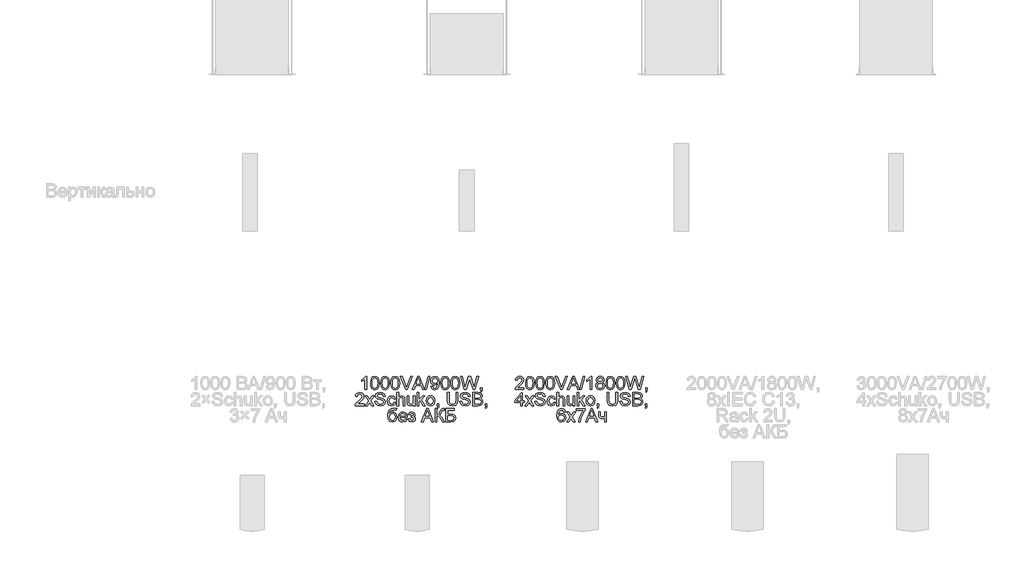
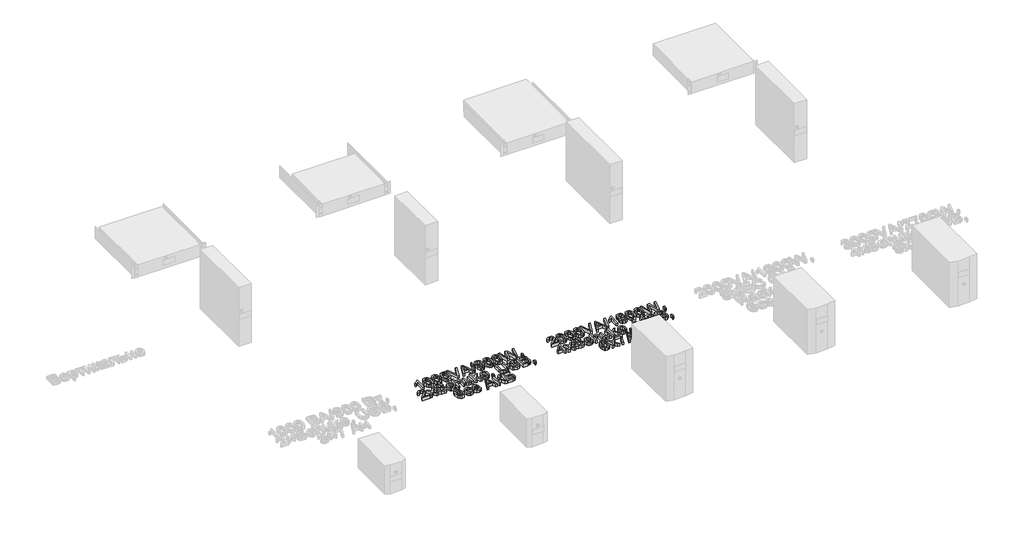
# One storey, part 56 of 74: 2 proxies.
"""IFC4 building model written with IfcOpenShell, lengths in millimetres."""

from ifc_helpers import new_model, si_unit, origin, origin_with_axes, place, context, project, spatial, polyline, outline, extrude, element, save

model = new_model("IFC4")

# Units and contexts
model_context = context("Model", 3, world=origin())
ifc_project = project(units=[si_unit("LENGTHUNIT", "METRE", prefix="MILLI")], contexts=[model_context])

# Site, building, storey
site = spatial("IfcSite", under=ifc_project)
building = spatial("IfcBuilding", under=site)
storey = spatial("IfcBuildingStorey", under=building, Name="Этаж 01", Elevation=0.0)

# Proxies
placement = place(None, origin())
element("IfcBuildingElementProxy", 1, Name="80 мм Arial", ObjectType="80 мм Arial", at=placement, inside=storey, context=model_context, shape_type="SweptSolid", body=[
    extrude(outline(polyline([(2046.0651374, -737.6348585), (2036.0195064, -737.6348585), (2036.0195064, -675.0066276), (2026.5036255, -681.7854665), (2015.9282444, -686.857333), (2015.9282444, -677.3610724), (2030.6533344, -667.9629137), (2039.5904143, -657.2698104), (2046.0651374, -657.2698104), (2046.0651374, -737.6348585)])), origin_with_axes(), (0.0, 0.0, 1.0), 20.0),
    extrude(outline(polyline([(2069.9235111, -698.0998067), (2072.8763772, -674.9771971), (2081.646684, -661.6451535), (2096.2932925, -657.2698104), (2108.0262756, -659.8596996), (2116.1294897, -667.3252516), (2120.8383792, -679.2151976), (2122.6630739, -698.0998067), (2119.7396383, -721.1243145), (2110.9987621, -734.4857886), (2096.2932925, -738.8905623), (2085.855254, -736.977576), (2077.9286233, -731.2386168), (2071.9247891, -717.6466034), (2069.9235111, -698.0998067)]), holes=[polyline([(2079.9691421, -698.0801864), (2081.1463645, -713.8819443), (2084.6780316, -723.0274907), (2096.2932925, -728.8449313), (2107.9085534, -723.0078703), (2111.4402205, -713.8574189), (2112.6174429, -698.0801864), (2111.4794613, -682.6340476), (2108.0655163, -673.4173774), (2102.8170665, -668.8409254), (2096.1755703, -667.3154414), (2084.8349946, -672.6914236), (2081.1856052, -682.4819898), (2079.9691421, -698.0801864)])]), origin_with_axes(), (0.0, 0.0, 1.0), 20.0),
    extrude(outline(polyline([(2131.453001, -698.0998067), (2134.4058672, -674.9771971), (2143.176174, -661.6451535), (2157.8227825, -657.2698104), (2169.5557656, -659.8596996), (2177.6589796, -667.3252516), (2182.3678692, -679.2151976), (2184.1925639, -698.0998067), (2181.2691283, -721.1243145), (2172.5282521, -734.4857886), (2157.8227825, -738.8905623), (2147.384744, -736.977576), (2139.4581133, -731.2386168), (2133.4542791, -717.6466034), (2131.453001, -698.0998067)]), holes=[polyline([(2141.4986321, -698.0801864), (2142.6758544, -713.8819443), (2146.2075216, -723.0274907), (2157.8227825, -728.8449313), (2169.4380433, -723.0078703), (2172.9697105, -713.8574189), (2174.1469329, -698.0801864), (2173.0089512, -682.6340476), (2169.5950063, -673.4173774), (2164.3465565, -668.8409254), (2157.7050602, -667.3154414), (2146.3644846, -672.6914236), (2142.7150952, -682.4819898), (2141.4986321, -698.0801864)])]), origin_with_axes(), (0.0, 0.0, 1.0), 20.0),
    extrude(outline(polyline([(2192.982491, -698.0998067), (2195.9353572, -674.9771971), (2204.7056639, -661.6451535), (2219.3522724, -657.2698104), (2231.0852555, -659.8596996), (2239.1884696, -667.3252516), (2243.8973591, -679.2151976), (2245.7220538, -698.0998067), (2242.7986183, -721.1243145), (2234.0577421, -734.4857886), (2219.3522724, -738.8905623), (2208.914234, -736.977576), (2200.9876032, -731.2386168), (2194.9837691, -717.6466034), (2192.982491, -698.0998067)]), holes=[polyline([(2203.028122, -698.0801864), (2204.2053444, -713.8819443), (2207.7370116, -723.0274907), (2219.3522724, -728.8449313), (2230.9675333, -723.0078703), (2234.4992004, -713.8574189), (2235.6764228, -698.0801864), (2234.5384412, -682.6340476), (2231.1244963, -673.4173774), (2225.8760465, -668.8409254), (2219.2345502, -667.3154414), (2207.8939746, -672.6914236), (2204.2445852, -682.4819898), (2203.028122, -698.0801864)])]), origin_with_axes(), (0.0, 0.0, 1.0), 20.0),
    extrude(outline(polyline([(2282.019744, -737.6348585), (2250.0385359, -657.2698104), (2260.7905004, -657.2698104), (2282.1963274, -715.1695313), (2286.5324298, -728.2170794), (2290.8096712, -715.1695313), (2312.2743593, -657.2698104), (2323.0263238, -657.2698104), (2292.3989214, -737.6348585), (2282.019744, -737.6348585)])), origin_with_axes(), (0.0, 0.0, 1.0), 20.0),
    extrude(outline(polyline([(2323.0067034, -737.6348585), (2355.0860134, -657.2698104), (2363.640496, -657.2698104), (2395.719806, -737.6348585), (2385.1051842, -737.6348585), (2375.9032292, -712.5207809), (2342.8036598, -712.5207809), (2333.6213252, -737.6348585), (2323.0067034, -737.6348585)]), holes=[polyline([(2346.49229, -702.4751499), (2372.2342194, -702.4751499), (2364.9943018, -682.7174342), (2359.3632547, -667.3154414), (2354.3600596, -680.9908414), (2346.49229, -702.4751499)])]), origin_with_axes(), (0.0, 0.0, 1.0), 20.0),
    extrude(outline(polyline([(2397.6622229, -737.6348585), (2420.2648927, -657.2698104), (2429.3295051, -657.2698104), (2406.7268353, -737.6348585), (2397.6622229, -737.6348585)])), origin_with_axes(), (0.0, 0.0, 1.0), 20.0),
    extrude(outline(polyline([(2435.3333393, -717.5435964), (2445.3789703, -716.2878926), (2449.8916561, -725.8724448), (2458.4461387, -728.8449313), (2466.5787834, -726.931945), (2472.0921082, -721.8208378), (2475.3785207, -713.0897718), (2476.8304283, -701.4352701), (2476.7715672, -699.4732328), (2468.7370244, -707.0859376), (2457.7201849, -710.0093732), (2448.5599233, -708.2239192), (2440.9349558, -702.8675574), (2435.7919655, -694.592665), (2434.0776354, -684.0516196), (2435.8753521, -673.1623125), (2441.2685021, -664.6274503), (2449.3692636, -659.1092203), (2459.2898148, -657.2698104), (2473.6028769, -661.4685702), (2483.4523042, -673.4369978), (2486.8171982, -695.9219453), (2483.4621144, -720.3198792), (2473.4851547, -734.1424321), (2457.9752498, -738.8905623), (2449.3864315, -737.4901582), (2442.5340162, -733.2889458), (2435.3333393, -717.5435964)]), holes=[polyline([(2476.7715672, -683.8161751), (2472.4354647, -671.7692661), (2460.9183057, -667.3154414), (2448.8321559, -672.1126226), (2444.1232664, -684.5421289), (2448.5770911, -695.6766906), (2460.6436205, -699.9637422), (2472.2294508, -695.6766906), (2476.7715672, -683.8161751)])]), origin_with_axes(), (0.0, 0.0, 1.0), 20.0),
    extrude(outline(polyline([(2495.6071253, -698.0998067), (2498.5599915, -674.9771971), (2507.3302983, -661.6451535), (2521.9769068, -657.2698104), (2533.7098899, -659.8596996), (2541.8131039, -667.3252516), (2546.5219935, -679.2151976), (2548.3466882, -698.0998067), (2545.4232526, -721.1243145), (2536.6823764, -734.4857886), (2521.9769068, -738.8905623), (2511.5388683, -736.977576), (2503.6122376, -731.2386168), (2497.6084034, -717.6466034), (2495.6071253, -698.0998067)]), holes=[polyline([(2505.6527564, -698.0801864), (2506.8299787, -713.8819443), (2510.3616459, -723.0274907), (2521.9769068, -728.8449313), (2533.5921676, -723.0078703), (2537.1238348, -713.8574189), (2538.3010572, -698.0801864), (2537.1630755, -682.6340476), (2533.7491306, -673.4173774), (2528.5006808, -668.8409254), (2521.8591845, -667.3154414), (2510.5186089, -672.6914236), (2506.8692195, -682.4819898), (2505.6527564, -698.0801864)])]), origin_with_axes(), (0.0, 0.0, 1.0), 20.0),
    extrude(outline(polyline([(2557.1366153, -698.0998067), (2560.0894815, -674.9771971), (2568.8597882, -661.6451535), (2583.5063967, -657.2698104), (2595.2393798, -659.8596996), (2603.3425939, -667.3252516), (2608.0514834, -679.2151976), (2609.8761781, -698.0998067), (2606.9527425, -721.1243145), (2598.2118663, -734.4857886), (2583.5063967, -738.8905623), (2573.0683582, -736.977576), (2565.1417275, -731.2386168), (2559.1378934, -717.6466034), (2557.1366153, -698.0998067)]), holes=[polyline([(2567.1822463, -698.0801864), (2568.3594687, -713.8819443), (2571.8911359, -723.0274907), (2583.5063967, -728.8449313), (2595.1216576, -723.0078703), (2598.6533247, -713.8574189), (2599.8305471, -698.0801864), (2598.6925655, -682.6340476), (2595.2786206, -673.4173774), (2590.0301708, -668.8409254), (2583.3886745, -667.3154414), (2572.0480988, -672.6914236), (2568.3987095, -682.4819898), (2567.1822463, -698.0801864)])]), origin_with_axes(), (0.0, 0.0, 1.0), 20.0),
    extrude(outline(polyline([(2636.8149504, -737.6348585), (2614.8989936, -657.2698104), (2625.2585506, -657.2698104), (2637.9725524, -710.0878547), (2641.896627, -726.3923847), (2646.0953868, -711.9714105), (2662.0271298, -657.2698104), (2676.9582337, -657.2698104), (2688.5342538, -696.9225843), (2697.1475976, -726.3923847), (2700.95395, -710.5587436), (2713.7856739, -657.2698104), (2724.1452309, -657.2698104), (2702.2096538, -737.6348585), (2691.4773098, -737.6348585), (2672.2101034, -675.6344796), (2669.5221123, -666.981895), (2666.5005748, -677.4003131), (2648.9403409, -737.6348585), (2636.8149504, -737.6348585)])), origin_with_axes(), (0.0, 0.0, 1.0), 20.0),
    extrude(outline(polyline([(2735.4465658, -737.6348585), (2735.4465658, -727.5892275), (2745.4921968, -727.5892275), (2745.4921968, -737.6348585), (2743.6871225, -747.9061238), (2737.9579736, -753.9590089), (2735.4465658, -750.1918972), (2739.135196, -745.8557948), (2740.449761, -737.6348585), (2735.4465658, -737.6348585)])), origin_with_axes(), (0.0, 0.0, 1.0), 20.0),
    extrude(outline(polyline([(2030.368839, -825.1690817), (2030.368839, -835.2147127), (1977.6292761, -835.2147127), (1978.7083967, -828.2887211), (1984.8103327, -817.6250483), (1997.3869918, -805.9803569), (2014.7314016, -789.2441786), (2019.0675041, -777.8643622), (2014.9766563, -768.6525971), (2004.2933631, -764.8952956), (1993.1588014, -768.5643054), (1988.930611, -778.7080383), (1978.88498, -777.4523344), (1981.3203588, -767.7353446), (1986.5859764, -760.6376747), (1994.4071477, -756.2966671), (2004.5091872, -754.8496646), (2014.6848032, -756.4585352), (2022.4912592, -761.285147), (2027.4576661, -768.4956341), (2029.1131351, -777.2561307), (2027.3276811, -786.7818218), (2021.3925183, -796.6312491), (2007.0009746, -810.3949408), (1995.4445749, -820.0579745), (1990.9122687, -825.1690817), (2030.368839, -825.1690817)])), origin_with_axes(), (0.0, 0.0, 1.0), 20.0),
    extrude(outline(polyline([(2036.6473583, -835.2147127), (2058.1120465, -805.5487087), (2037.9030622, -776.1966305), (2049.989212, -776.1966305), (2059.7405375, -790.3232991), (2064.292464, -796.994226), (2068.236159, -791.5397623), (2079.3412902, -776.1966305), (2091.42744, -776.1966305), (2070.1981963, -805.5487087), (2090.6426251, -835.2147127), (2078.5564752, -835.2147127), (2066.2545013, -817.3797936), (2063.9981584, -814.1228117), (2048.7335082, -835.2147127), (2036.6473583, -835.2147127)])), origin_with_axes(), (0.0, 0.0, 1.0), 20.0),
    extrude(outline(polyline([(2096.9211444, -807.5892275), (2106.9667754, -807.5892275), (2110.204137, -817.6446687), (2118.1111474, -824.0016695), (2130.1580564, -826.4247856), (2140.654956, -824.5902807), (2147.4337949, -819.5478448), (2149.6607073, -812.8082467), (2147.9929756, -806.5395375), (2141.1650857, -801.9778008), (2126.5380976, -798.1420178), (2110.7927482, -793.1878736), (2102.2480757, -785.7125115), (2099.4325522, -775.7257416), (2102.9151684, -764.3557354), (2113.0883318, -756.3310028), (2127.980195, -753.5939608), (2143.8726972, -756.4585352), (2154.4676987, -764.8756753), (2158.4506344, -777.4523344), (2148.4050034, -777.4523344), (2142.7150952, -767.1320182), (2128.3726025, -763.6395918), (2113.990869, -767.0927774), (2109.4781832, -775.431436), (2112.676304, -782.3966684), (2129.0789359, -788.0080951), (2146.8549939, -793.050531), (2156.5768888, -801.1929858), (2159.7063383, -812.5531818), (2156.1059998, -824.5706604), (2145.7464428, -833.3409671), (2130.5504639, -836.4704166), (2112.6076327, -833.0957125), (2101.2572469, -822.9323592), (2096.9211444, -807.5892275)])), origin_with_axes(), (0.0, 0.0, 1.0), 20.0),
    extrude(outline(polyline([(2211.1901972, -813.8677468), (2221.2358282, -815.1234507), (2218.43502, -824.0580781), (2213.1718549, -830.809939), (2197.240112, -836.4704166), (2186.5543663, -834.4961166), (2178.1985399, -828.5732165), (2172.8053899, -818.9616862), (2171.0076732, -805.9214957), (2174.0782616, -789.2343684), (2183.4371795, -778.5118346), (2197.1027694, -774.9409267), (2212.3772298, -779.8460199), (2219.9801244, -793.7764848), (2209.9344934, -795.0321887), (2205.2746547, -787.5077756), (2197.1812509, -784.9865577), (2185.5365594, -789.9505121), (2181.0533042, -805.6468105), (2185.4384576, -821.4902618), (2196.9065656, -826.4247856), (2206.3733956, -823.344387), (2211.1901972, -813.8677468)])), origin_with_axes(), (0.0, 0.0, 1.0), 20.0),
    extrude(outline(polyline([(2230.0257554, -835.2147127), (2230.0257554, -754.8496646), (2240.0713864, -754.8496646), (2240.0713864, -784.3979465), (2247.9048203, -777.3051816), (2257.5531388, -774.9409267), (2268.8348533, -777.5210057), (2275.6823635, -784.6530113), (2277.7425027, -797.8575224), (2277.7425027, -835.2147127), (2267.6968717, -835.2147127), (2267.6968717, -798.8974022), (2264.4987509, -788.3024007), (2255.4341385, -784.9865577), (2247.203392, -787.2232802), (2241.7096875, -793.2859755), (2240.0713864, -803.8613566), (2240.0713864, -835.2147127), (2230.0257554, -835.2147127)])), origin_with_axes(), (0.0, 0.0, 1.0), 20.0),
    extrude(outline(polyline([(2329.2263617, -835.2147127), (2329.2263617, -825.0709799), (2321.3585921, -833.6205574), (2311.0971369, -836.4704166), (2301.6499273, -834.4691386), (2295.1359634, -829.4463231), (2292.1438565, -822.0494424), (2291.5552453, -812.7101448), (2291.5552453, -776.1966305), (2301.6008764, -776.1966305), (2301.6008764, -807.9816349), (2302.2091079, -818.2234697), (2306.1822335, -824.237114), (2313.6674058, -826.4247856), (2322.0551153, -824.1880631), (2327.5978707, -818.0959372), (2329.2263617, -806.9025144), (2329.2263617, -776.1966305), (2339.2719927, -776.1966305), (2339.2719927, -835.2147127), (2329.2263617, -835.2147127)])), origin_with_axes(), (0.0, 0.0, 1.0), 20.0),
    extrude(outline(polyline([(2353.0847353, -835.2147127), (2353.0847353, -754.8496646), (2363.1303663, -754.8496646), (2363.1303663, -798.0341058), (2385.6545546, -776.1966305), (2399.5457788, -776.1966305), (2376.7469052, -798.308791), (2400.8014826, -835.2147127), (2389.0684995, -835.2147127), (2369.5462283, -805.2936438), (2363.1303663, -811.5133021), (2363.1303663, -835.2147127), (2353.0847353, -835.2147127)])), origin_with_axes(), (0.0, 0.0, 1.0), 20.0),
    extrude(outline(polyline([(2407.080002, -805.7056716), (2409.2529583, -791.4759961), (2415.7718273, -781.4745109), (2423.8259904, -776.5743227), (2433.4694038, -774.9409267), (2444.022712, -776.929942), (2452.4521148, -782.8969879), (2457.9777023, -792.3711756), (2459.8195649, -804.881616), (2456.5625829, -822.7557758), (2447.0761325, -832.8700782), (2433.4694038, -836.4704166), (2422.7885632, -834.4887589), (2414.3689706, -828.5437859), (2408.9022442, -818.870942), (2407.080002, -805.7056716)]), holes=[polyline([(2417.125633, -805.6860513), (2421.7756615, -821.2548173), (2433.4694038, -826.4247856), (2445.1239054, -821.2253867), (2449.7739338, -805.3721253), (2445.0944749, -790.156526), (2433.4694038, -784.9865577), (2421.7756615, -790.1369056), (2417.125633, -805.6860513)])]), origin_with_axes(), (0.0, 0.0, 1.0), 20.0),
    extrude(outline(polyline([(2473.6323075, -835.2147127), (2473.6323075, -825.1690817), (2483.6779385, -825.1690817), (2483.6779385, -835.2147127), (2481.8728642, -845.4859781), (2476.1437152, -851.5388631), (2473.6323075, -847.7717515), (2477.3209376, -843.4356491), (2478.6355026, -835.2147127), (2473.6323075, -835.2147127)])), origin_with_axes(), (0.0, 0.0, 1.0), 20.0),
    extrude(outline(polyline([(2587.9013603, -754.8496646), (2597.9469913, -754.8496646), (2597.9469913, -801.2126062), (2595.2197594, -820.4307616), (2585.3899525, -832.0067817), (2566.7505981, -836.4704166), (2548.3957391, -832.5855828), (2538.2127655, -821.3332988), (2535.1617975, -801.2126062), (2535.1617975, -754.8496646), (2545.2074285, -754.8496646), (2545.2074285, -800.8594395), (2547.1890862, -816.1731407), (2553.9973556, -823.7564149), (2565.8088202, -826.4247856), (2576.0261295, -825.1053155), (2582.8196837, -821.1469053), (2586.6309411, -813.4360986), (2587.9013603, -800.8594395), (2587.9013603, -754.8496646)])), origin_with_axes(), (0.0, 0.0, 1.0), 20.0),
    extrude(outline(polyline([(2611.759734, -807.5892275), (2621.805365, -807.5892275), (2625.0427265, -817.6446687), (2632.9497369, -824.0016695), (2644.9966459, -826.4247856), (2655.4935455, -824.5902807), (2662.2723844, -819.5478448), (2664.4992968, -812.8082467), (2662.8315651, -806.5395375), (2656.0036752, -801.9778008), (2641.3766871, -798.1420178), (2625.6313377, -793.1878736), (2617.0866652, -785.7125115), (2614.2711417, -775.7257416), (2617.7537579, -764.3557354), (2627.9269214, -756.3310028), (2642.8187845, -753.5939608), (2658.7112867, -756.4585352), (2669.3062882, -764.8756753), (2673.2892239, -777.4523344), (2663.2435929, -777.4523344), (2657.5536847, -767.1320182), (2643.211192, -763.6395918), (2628.8294585, -767.0927774), (2624.3167727, -775.431436), (2627.5148935, -782.3966684), (2643.9175254, -788.0080951), (2661.6935834, -793.050531), (2671.4154783, -801.1929858), (2674.5449278, -812.5531818), (2670.9445893, -824.5706604), (2660.5850324, -833.3409671), (2645.3890534, -836.4704166), (2627.4462222, -833.0957125), (2616.0958364, -822.9323592), (2611.759734, -807.5892275)])), origin_with_axes(), (0.0, 0.0, 1.0), 20.0),
    extrude(outline(polyline([(2689.6133743, -835.2147127), (2689.6133743, -754.8496646), (2720.2800174, -754.8496646), (2735.299413, -757.2139196), (2744.1678217, -764.4832678), (2747.3757527, -774.7643433), (2744.6779514, -784.1526918), (2736.5256863, -791.2650771), (2746.4241646, -798.7600596), (2749.8871604, -811.2582372), (2747.5229055, -822.0592526), (2741.6662241, -829.7504388), (2732.9253479, -833.8314764), (2720.044573, -835.2147127), (2689.6133743, -835.2147127)]), holes=[polyline([(2699.6590053, -787.4979654), (2718.0040542, -787.4979654), (2728.7167779, -786.634669), (2735.1620704, -782.9166083), (2737.3301216, -776.3732139), (2735.3092232, -769.8200093), (2729.5212132, -765.9449856), (2716.6110077, -764.8952956), (2699.6590053, -764.8952956), (2699.6590053, -787.4979654)]), polyline([(2699.6590053, -825.1690817), (2720.2603971, -825.1690817), (2727.7161388, -824.7766743), (2734.0240888, -822.5890027), (2738.2032282, -818.1253678), (2739.8415294, -811.3563391), (2737.9187328, -803.5474306), (2731.6892644, -798.887592), (2719.2793784, -797.5435964), (2699.6590053, -797.5435964), (2699.6590053, -825.1690817)])]), origin_with_axes(), (0.0, 0.0, 1.0), 20.0),
    extrude(outline(polyline([(2764.9556069, -835.2147127), (2764.9556069, -825.1690817), (2775.0012379, -825.1690817), (2775.0012379, -835.2147127), (2773.1961636, -845.4859781), (2767.4670147, -851.5388631), (2764.9556069, -847.7717515), (2768.6442371, -843.4356491), (2769.9588021, -835.2147127), (2764.9556069, -835.2147127)])), origin_with_axes(), (0.0, 0.0, 1.0), 20.0),
    extrude(outline(polyline([(2218.7244205, -851.173815), (2227.5143476, -851.173815), (2224.9244584, -859.0121541), (2219.803541, -861.847298), (2207.5015671, -862.4751499), (2190.932162, -864.7903539), (2184.5751612, -872.206855), (2182.4267303, -885.3328846), (2191.1283658, -875.7189017), (2202.341409, -872.5207809), (2212.7941627, -874.5539421), (2221.275069, -880.6534256), (2226.8963059, -890.22081), (2228.7700515, -902.657674), (2225.0519908, -919.9432227), (2216.2326331, -930.3714509), (2202.341409, -934.0502709), (2186.4783373, -929.3119508), (2177.7963223, -917.1865602), (2174.7747848, -891.454441), (2176.6804135, -872.179877), (2182.3972997, -860.4248209), (2192.0676911, -854.4283444), (2205.8338354, -852.4295189), (2217.017448, -852.2038846), (2218.7244205, -851.173815)]), holes=[polyline([(2218.7244205, -902.343748), (2214.3686977, -888.1091673), (2209.1202479, -883.9521008), (2202.0863441, -882.5664119), (2194.7532297, -884.0305823), (2189.3134813, -888.4230933), (2184.8204158, -904.0703408), (2189.7843702, -918.8739123), (2202.027483, -924.0046399), (2208.7621761, -922.5208492), (2214.0940124, -918.069477), (2218.7244205, -902.343748)])]), origin_with_axes(), (0.0, 0.0, 1.0), 20.0),
    extrude(outline(polyline([(2282.647596, -915.2147127), (2292.4970233, -916.4704166), (2283.2852581, -929.4394832), (2266.1272418, -934.0502709), (2254.3403027, -932.0612556), (2245.2707853, -926.0942096), (2239.4876803, -916.5366354), (2237.5599786, -903.7760352), (2239.5073007, -890.5862394), (2245.3492668, -880.7220969), (2254.2961569, -874.5711099), (2265.558251, -872.5207809), (2276.469631, -874.5662048), (2285.1884343, -880.7024765), (2290.9053205, -890.5469987), (2292.8109492, -903.7171741), (2292.7520881, -906.4247856), (2247.6056097, -906.4247856), (2253.3838095, -919.4723337), (2266.3234456, -924.0046399), (2276.1728729, -921.90526), (2282.647596, -915.2147127)]), holes=[polyline([(2247.6056097, -896.3791546), (2282.7653182, -896.3791546), (2278.7431417, -887.2753015), (2265.5190103, -882.5664119), (2253.1483651, -886.3237134), (2247.6056097, -896.3791546)])]), origin_with_axes(), (0.0, 0.0, 1.0), 20.0),
    extrude(outline(polyline([(2316.6693229, -906.4247856), (2316.6693229, -896.3791546), (2324.5959536, -895.9867471), (2328.5985097, -893.8971774), (2330.4820655, -889.5316444), (2327.9608476, -884.459778), (2321.4566939, -882.5664119), (2314.7367161, -884.4499678), (2310.3908035, -890.1006352), (2299.0894686, -888.8449313), (2306.6433122, -876.6018185), (2320.4364345, -872.5207809), (2335.1909551, -877.4945455), (2340.5276965, -889.3746814), (2338.6294255, -895.61396), (2332.9346122, -900.4405718), (2339.5761085, -906.6994708), (2341.7834004, -915.7052221), (2340.3829963, -923.0996502), (2336.1817839, -928.9587841), (2320.514916, -934.0502709), (2305.0638722, -929.3413814), (2297.8337647, -915.2147127), (2309.1350996, -913.9590089), (2313.6674058, -921.3755099), (2321.4763143, -924.0046399), (2328.8143338, -921.4834219), (2331.7377694, -915.0381294), (2329.9228849, -909.760249), (2326.0576714, -906.9349153), (2318.6313602, -906.3659245), (2316.6693229, -906.4247856)])), origin_with_axes(), (0.0, 0.0, 1.0), 20.0),
    extrude(outline(polyline([(2377.629822, -932.794567), (2409.709132, -852.4295189), (2418.2636147, -852.4295189), (2450.3429247, -932.794567), (2439.7283028, -932.794567), (2430.5263478, -907.6804895), (2397.4267785, -907.6804895), (2388.2444439, -932.794567), (2377.629822, -932.794567)]), holes=[polyline([(2401.1154086, -897.6348585), (2426.8573381, -897.6348585), (2419.6174204, -877.8771428), (2413.9863733, -862.4751499), (2408.9831782, -876.15055), (2401.1154086, -897.6348585)])]), origin_with_axes(), (0.0, 0.0, 1.0), 20.0),
    extrude(outline(polyline([(2461.0752687, -852.4295189), (2471.1208997, -852.4295189), (2471.1208997, -887.5892275), (2482.3535633, -884.9306669), (2490.1919024, -871.4809012), (2495.7346578, -860.2482376), (2502.0131772, -854.6858618), (2510.9894978, -852.4295189), (2517.5819432, -852.5472411), (2517.5819432, -862.5928722), (2515.364841, -862.534011), (2513.1477389, -862.4751499), (2505.2995896, -864.8884558), (2499.3349962, -875.2283924), (2492.222611, -887.8246719), (2485.2868091, -891.984191), (2493.0417616, -896.5263074), (2500.688802, -905.9931374), (2517.5819432, -932.794567), (2505.9274416, -932.794567), (2491.64381, -910.1526565), (2481.5883688, -898.3313817), (2471.1208997, -895.1234507), (2471.1208997, -932.794567), (2461.0752687, -932.794567), (2461.0752687, -852.4295189)])), origin_with_axes(), (0.0, 0.0, 1.0), 20.0),
    extrude(outline(polyline([(2526.3718703, -852.4295189), (2576.6000254, -852.4295189), (2576.6000254, -862.4751499), (2536.4175013, -862.4751499), (2536.4175013, -886.3335236), (2555.2334391, -886.3335236), (2571.8126544, -888.3740424), (2581.681702, -896.084849), (2585.3899525, -909.2697397), (2582.7510124, -920.7182274), (2574.8734326, -929.4198629), (2557.0385134, -932.794567), (2526.3718703, -932.794567), (2526.3718703, -852.4295189)]), holes=[polyline([(2536.4175013, -922.748936), (2557.9410506, -922.748936), (2570.9885987, -919.433093), (2575.3443215, -909.4855638), (2572.8525341, -901.6177942), (2565.9167323, -897.4190344), (2550.7796144, -896.3791546), (2536.4175013, -896.3791546), (2536.4175013, -922.748936)])]), origin_with_axes(), (0.0, 0.0, 1.0), 20.0),
])
element("IfcBuildingElementProxy", 2, Name="80 мм Arial", ObjectType="80 мм Arial", at=placement, inside=storey, context=model_context, shape_type="SweptSolid", body=[
    extrude(outline(polyline([(2999.1131351, -727.5892275), (2999.1131351, -737.6348585), (2946.3735723, -737.6348585), (2947.4526928, -730.7088668), (2953.5546288, -720.045194), (2966.1312879, -708.4005026), (2983.4756977, -691.6643244), (2987.8118002, -680.284508), (2983.7209524, -671.0727428), (2973.0376593, -667.3154414), (2961.9030975, -670.9844511), (2957.6749071, -681.128184), (2947.6292761, -679.8724801), (2950.0646549, -670.1554904), (2955.3302726, -663.0578204), (2963.1514438, -658.7168129), (2973.2534834, -657.2698104), (2983.4290994, -658.8786809), (2991.2355553, -663.7052927), (2996.2019622, -670.9157798), (2997.8574312, -679.6762764), (2996.0719773, -689.2019675), (2990.1368144, -699.0513948), (2975.7452708, -712.8150865), (2964.188871, -722.4781203), (2959.6565648, -727.5892275), (2999.1131351, -727.5892275)])), origin_with_axes(), (0.0, 0.0, 1.0), 20.0),
    extrude(outline(polyline([(3009.1587661, -698.0998067), (3012.1116322, -674.9771971), (3020.881939, -661.6451535), (3035.5285475, -657.2698104), (3047.2615306, -659.8596996), (3055.3647447, -667.3252516), (3060.0736342, -679.2151976), (3061.8983289, -698.0998067), (3058.9748933, -721.1243145), (3050.2340171, -734.4857886), (3035.5285475, -738.8905623), (3025.090509, -736.977576), (3017.1638783, -731.2386168), (3011.1600442, -717.6466034), (3009.1587661, -698.0998067)]), holes=[polyline([(3019.2043971, -698.0801864), (3020.3816195, -713.8819443), (3023.9132867, -723.0274907), (3035.5285475, -728.8449313), (3047.1438084, -723.0078703), (3050.6754755, -713.8574189), (3051.8526979, -698.0801864), (3050.7147163, -682.6340476), (3047.3007714, -673.4173774), (3042.0523216, -668.8409254), (3035.4108253, -667.3154414), (3024.0702496, -672.6914236), (3020.4208602, -682.4819898), (3019.2043971, -698.0801864)])]), origin_with_axes(), (0.0, 0.0, 1.0), 20.0),
    extrude(outline(polyline([(3070.6882561, -698.0998067), (3073.6411222, -674.9771971), (3082.411429, -661.6451535), (3097.0580375, -657.2698104), (3108.7910206, -659.8596996), (3116.8942347, -667.3252516), (3121.6031242, -679.2151976), (3123.4278189, -698.0998067), (3120.5043833, -721.1243145), (3111.7635071, -734.4857886), (3097.0580375, -738.8905623), (3086.619999, -736.977576), (3078.6933683, -731.2386168), (3072.6895341, -717.6466034), (3070.6882561, -698.0998067)]), holes=[polyline([(3080.7338871, -698.0801864), (3081.9111095, -713.8819443), (3085.4427766, -723.0274907), (3097.0580375, -728.8449313), (3108.6732983, -723.0078703), (3112.2049655, -713.8574189), (3113.3821879, -698.0801864), (3112.2442062, -682.6340476), (3108.8302613, -673.4173774), (3103.5818115, -668.8409254), (3096.9403152, -667.3154414), (3085.5997396, -672.6914236), (3081.9503502, -682.4819898), (3080.7338871, -698.0801864)])]), origin_with_axes(), (0.0, 0.0, 1.0), 20.0),
    extrude(outline(polyline([(3132.217746, -698.0998067), (3135.1706122, -674.9771971), (3143.9409189, -661.6451535), (3158.5875274, -657.2698104), (3170.3205105, -659.8596996), (3178.4237246, -667.3252516), (3183.1326142, -679.2151976), (3184.9573089, -698.0998067), (3182.0338733, -721.1243145), (3173.2929971, -734.4857886), (3158.5875274, -738.8905623), (3148.149489, -736.977576), (3140.2228582, -731.2386168), (3134.2190241, -717.6466034), (3132.217746, -698.0998067)]), holes=[polyline([(3142.263377, -698.0801864), (3143.4405994, -713.8819443), (3146.9722666, -723.0274907), (3158.5875274, -728.8449313), (3170.2027883, -723.0078703), (3173.7344555, -713.8574189), (3174.9116778, -698.0801864), (3173.7736962, -682.6340476), (3170.3597513, -673.4173774), (3165.1113015, -668.8409254), (3158.4698052, -667.3154414), (3147.1292296, -672.6914236), (3143.4798402, -682.4819898), (3142.263377, -698.0801864)])]), origin_with_axes(), (0.0, 0.0, 1.0), 20.0),
    extrude(outline(polyline([(3262.2419584, -737.6348585), (3294.3212684, -657.2698104), (3302.875751, -657.2698104), (3334.955061, -737.6348585), (3324.3404392, -737.6348585), (3315.1384842, -712.5207809), (3282.0389148, -712.5207809), (3272.8565802, -737.6348585), (3262.2419584, -737.6348585)]), holes=[polyline([(3285.727545, -702.4751499), (3311.4694745, -702.4751499), (3304.2295568, -682.7174342), (3298.5985097, -667.3154414), (3293.5953146, -680.9908414), (3285.727545, -702.4751499)])]), origin_with_axes(), (0.0, 0.0, 1.0), 20.0),
    extrude(outline(polyline([(3221.2549991, -737.6348585), (3189.2737909, -657.2698104), (3200.0257554, -657.2698104), (3221.4315824, -715.1695313), (3225.7676849, -728.2170794), (3230.0449262, -715.1695313), (3251.5096143, -657.2698104), (3262.2615788, -657.2698104), (3231.6341764, -737.6348585), (3221.2549991, -737.6348585)])), origin_with_axes(), (0.0, 0.0, 1.0), 20.0),
    extrude(outline(polyline([(3336.897478, -737.6348585), (3359.5001477, -657.2698104), (3368.5647601, -657.2698104), (3345.9620903, -737.6348585), (3336.897478, -737.6348585)])), origin_with_axes(), (0.0, 0.0, 1.0), 20.0),
    extrude(outline(polyline([(3410.9840067, -737.6348585), (3400.9383757, -737.6348585), (3400.9383757, -675.0066276), (3391.4224947, -681.7854665), (3380.8471137, -686.857333), (3380.8471137, -677.3610724), (3395.5722036, -667.9629137), (3404.5092836, -657.2698104), (3410.9840067, -657.2698104), (3410.9840067, -737.6348585)])), origin_with_axes(), (0.0, 0.0, 1.0), 20.0),
    extrude(outline(polyline([(3449.4791787, -693.3712968), (3440.3262746, -687.1320182), (3437.3537881, -677.4199335), (3438.9724689, -669.5668792), (3443.8285112, -663.0774408), (3451.3774498, -658.721718), (3461.0748192, -657.2698104), (3470.8310497, -658.7560536), (3478.4780901, -663.2147834), (3483.4224241, -669.8072287), (3485.0705354, -677.6946187), (3482.1372897, -687.1614487), (3473.2394505, -693.3712968), (3483.9227436, -701.2488766), (3487.5819432, -714.2473738), (3485.7670587, -723.8515464), (3480.3224051, -731.7879873), (3471.9150753, -737.1149186), (3461.2121618, -738.8905623), (3450.5092483, -737.1075609), (3442.1019184, -731.7585567), (3436.6572649, -723.7460869), (3434.8423804, -713.9726885), (3438.6487327, -700.6700756), (3449.4791787, -693.3712968)]), holes=[polyline([(3447.3994191, -677.7142391), (3450.9605168, -685.6016291), (3461.329884, -688.6624073), (3471.4932373, -685.6212494), (3475.0249044, -678.1655077), (3471.375515, -670.4448909), (3461.2121618, -667.3154414), (3451.019378, -670.3762196), (3447.3994191, -677.7142391)]), polyline([(3444.8880114, -713.6195218), (3446.5655533, -721.1831756), (3452.5007161, -726.8436533), (3461.2906433, -728.8449313), (3473.2590708, -724.6363613), (3477.5363122, -713.9334478), (3473.1217282, -703.0245204), (3460.9570969, -698.7080383), (3449.1358221, -702.9656592), (3444.8880114, -713.6195218)])]), origin_with_axes(), (0.0, 0.0, 1.0), 20.0),
    extrude(outline(polyline([(3496.3718703, -698.0998067), (3499.3247365, -674.9771971), (3508.0950432, -661.6451535), (3522.7416517, -657.2698104), (3534.4746348, -659.8596996), (3542.5778489, -667.3252516), (3547.2867385, -679.2151976), (3549.1114332, -698.0998067), (3546.1879976, -721.1243145), (3537.4471214, -734.4857886), (3522.7416517, -738.8905623), (3512.3036133, -736.977576), (3504.3769825, -731.2386168), (3498.3731484, -717.6466034), (3496.3718703, -698.0998067)]), holes=[polyline([(3506.4175013, -698.0801864), (3507.5947237, -713.8819443), (3511.1263909, -723.0274907), (3522.7416517, -728.8449313), (3534.3569126, -723.0078703), (3537.8885798, -713.8574189), (3539.0658021, -698.0801864), (3537.9278205, -682.6340476), (3534.5138756, -673.4173774), (3529.2654258, -668.8409254), (3522.6239295, -667.3154414), (3511.2833539, -672.6914236), (3507.6339645, -682.4819898), (3506.4175013, -698.0801864)])]), origin_with_axes(), (0.0, 0.0, 1.0), 20.0),
    extrude(outline(polyline([(3557.9013603, -698.0998067), (3560.8542264, -674.9771971), (3569.6245332, -661.6451535), (3584.2711417, -657.2698104), (3596.0041248, -659.8596996), (3604.1073389, -667.3252516), (3608.8162284, -679.2151976), (3610.6409231, -698.0998067), (3607.7174875, -721.1243145), (3598.9766113, -734.4857886), (3584.2711417, -738.8905623), (3573.8331032, -736.977576), (3565.9064725, -731.2386168), (3559.9026383, -717.6466034), (3557.9013603, -698.0998067)]), holes=[polyline([(3567.9469913, -698.0801864), (3569.1242137, -713.8819443), (3572.6558808, -723.0274907), (3584.2711417, -728.8449313), (3595.8864026, -723.0078703), (3599.4180697, -713.8574189), (3600.5952921, -698.0801864), (3599.4573105, -682.6340476), (3596.0433656, -673.4173774), (3590.7949158, -668.8409254), (3584.1534195, -667.3154414), (3572.8128438, -672.6914236), (3569.1634544, -682.4819898), (3567.9469913, -698.0801864)])]), origin_with_axes(), (0.0, 0.0, 1.0), 20.0),
    extrude(outline(polyline([(3637.5796954, -737.6348585), (3615.6637386, -657.2698104), (3626.0232956, -657.2698104), (3638.7372974, -710.0878547), (3642.661372, -726.3923847), (3646.8601318, -711.9714105), (3662.7918748, -657.2698104), (3677.7229787, -657.2698104), (3689.2989988, -696.9225843), (3697.9123426, -726.3923847), (3701.7186949, -710.5587436), (3714.5504189, -657.2698104), (3724.9099759, -657.2698104), (3702.9743988, -737.6348585), (3692.2420547, -737.6348585), (3672.9748484, -675.6344796), (3670.2868573, -666.981895), (3667.2653198, -677.4003131), (3649.7050859, -737.6348585), (3637.5796954, -737.6348585)])), origin_with_axes(), (0.0, 0.0, 1.0), 20.0),
    extrude(outline(polyline([(3736.2113108, -737.6348585), (3736.2113108, -727.5892275), (3746.2569418, -727.5892275), (3746.2569418, -737.6348585), (3744.4518675, -747.9061238), (3738.7227186, -753.9590089), (3736.2113108, -750.1918972), (3739.8999409, -745.8557948), (3741.2145059, -737.6348585), (3736.2113108, -737.6348585)])), origin_with_axes(), (0.0, 0.0, 1.0), 20.0),
    extrude(outline(polyline([(2980.2775769, -835.2147127), (2980.2775769, -816.3791546), (2943.8621645, -816.3791546), (2943.8621645, -806.3335236), (2982.7889847, -756.1053685), (2990.3232079, -756.1053685), (2990.3232079, -806.3335236), (3000.368839, -806.3335236), (3000.368839, -816.3791546), (2990.3232079, -816.3791546), (2990.3232079, -835.2147127), (2980.2775769, -835.2147127)]), holes=[polyline([(2980.2775769, -806.3335236), (2980.2775769, -775.2940934), (2956.2229995, -806.3335236), (2980.2775769, -806.3335236)])]), origin_with_axes(), (0.0, 0.0, 1.0), 20.0),
    extrude(outline(polyline([(3005.3916545, -835.2147127), (3026.8563426, -805.5487087), (3006.6473583, -776.1966305), (3018.7335082, -776.1966305), (3028.4848336, -790.3232991), (3033.0367601, -796.994226), (3036.9804551, -791.5397623), (3048.0855863, -776.1966305), (3060.1717361, -776.1966305), (3038.9424924, -805.5487087), (3059.3869212, -835.2147127), (3047.3007714, -835.2147127), (3034.9987974, -817.3797936), (3032.7424545, -814.1228117), (3017.4778043, -835.2147127), (3005.3916545, -835.2147127)])), origin_with_axes(), (0.0, 0.0, 1.0), 20.0),
    extrude(outline(polyline([(3065.6654406, -807.5892275), (3075.7110716, -807.5892275), (3078.9484331, -817.6446687), (3086.8554435, -824.0016695), (3098.9023525, -826.4247856), (3109.3992521, -824.5902807), (3116.178091, -819.5478448), (3118.4050034, -812.8082467), (3116.7372717, -806.5395375), (3109.9093818, -801.9778008), (3095.2823937, -798.1420178), (3079.5370443, -793.1878736), (3070.9923718, -785.7125115), (3068.1768483, -775.7257416), (3071.6594645, -764.3557354), (3081.832628, -756.3310028), (3096.7244911, -753.5939608), (3112.6169933, -756.4585352), (3123.2119948, -764.8756753), (3127.1949305, -777.4523344), (3117.1492995, -777.4523344), (3111.4593913, -767.1320182), (3097.1168986, -763.6395918), (3082.7351651, -767.0927774), (3078.2224793, -775.431436), (3081.4206001, -782.3966684), (3097.823232, -788.0080951), (3115.59929, -793.050531), (3125.3211849, -801.1929858), (3128.4506344, -812.5531818), (3124.8502959, -824.5706604), (3114.490739, -833.3409671), (3099.29476, -836.4704166), (3081.3519288, -833.0957125), (3070.001543, -822.9323592), (3065.6654406, -807.5892275)])), origin_with_axes(), (0.0, 0.0, 1.0), 20.0),
    extrude(outline(polyline([(3179.9344934, -813.8677468), (3189.9801244, -815.1234507), (3187.1793161, -824.0580781), (3181.916151, -830.809939), (3165.9844081, -836.4704166), (3155.2986624, -834.4961166), (3146.942836, -828.5732165), (3141.549686, -818.9616862), (3139.7519693, -805.9214957), (3142.8225577, -789.2343684), (3152.1814756, -778.5118346), (3165.8470655, -774.9409267), (3181.1215259, -779.8460199), (3188.7244205, -793.7764848), (3178.6787895, -795.0321887), (3174.0189509, -787.5077756), (3165.925547, -784.9865577), (3154.2808556, -789.9505121), (3149.7976003, -805.6468105), (3154.1827537, -821.4902618), (3165.6508618, -826.4247856), (3175.1176918, -823.344387), (3179.9344934, -813.8677468)])), origin_with_axes(), (0.0, 0.0, 1.0), 20.0),
    extrude(outline(polyline([(3198.7700515, -835.2147127), (3198.7700515, -754.8496646), (3208.8156825, -754.8496646), (3208.8156825, -784.3979465), (3216.6491165, -777.3051816), (3226.2974349, -774.9409267), (3237.5791495, -777.5210057), (3244.4266597, -784.6530113), (3246.4867988, -797.8575224), (3246.4867988, -835.2147127), (3236.4411678, -835.2147127), (3236.4411678, -798.8974022), (3233.243047, -788.3024007), (3224.1784346, -784.9865577), (3215.9476881, -787.2232802), (3210.4539837, -793.2859755), (3208.8156825, -803.8613566), (3208.8156825, -835.2147127), (3198.7700515, -835.2147127)])), origin_with_axes(), (0.0, 0.0, 1.0), 20.0),
    extrude(outline(polyline([(3297.9706578, -835.2147127), (3297.9706578, -825.0709799), (3290.1028882, -833.6205574), (3279.8414331, -836.4704166), (3270.3942234, -834.4691386), (3263.8802596, -829.4463231), (3260.8881527, -822.0494424), (3260.2995415, -812.7101448), (3260.2995415, -776.1966305), (3270.3451725, -776.1966305), (3270.3451725, -807.9816349), (3270.9534041, -818.2234697), (3274.9265296, -824.237114), (3282.4117019, -826.4247856), (3290.7994114, -824.1880631), (3296.3421668, -818.0959372), (3297.9706578, -806.9025144), (3297.9706578, -776.1966305), (3308.0162888, -776.1966305), (3308.0162888, -835.2147127), (3297.9706578, -835.2147127)])), origin_with_axes(), (0.0, 0.0, 1.0), 20.0),
    extrude(outline(polyline([(3321.8290314, -835.2147127), (3321.8290314, -754.8496646), (3331.8746625, -754.8496646), (3331.8746625, -798.0341058), (3354.3988507, -776.1966305), (3368.2900749, -776.1966305), (3345.4912014, -798.308791), (3369.5457788, -835.2147127), (3357.8127957, -835.2147127), (3338.2905245, -805.2936438), (3331.8746625, -811.5133021), (3331.8746625, -835.2147127), (3321.8290314, -835.2147127)])), origin_with_axes(), (0.0, 0.0, 1.0), 20.0),
    extrude(outline(polyline([(3375.8242981, -805.7056716), (3377.9972545, -791.4759961), (3384.5161234, -781.4745109), (3392.5702866, -776.5743227), (3402.2136999, -774.9409267), (3412.7670081, -776.929942), (3421.1964109, -782.8969879), (3426.7219985, -792.3711756), (3428.563861, -804.881616), (3425.306879, -822.7557758), (3415.8204287, -832.8700782), (3402.2136999, -836.4704166), (3391.5328593, -834.4887589), (3383.1132667, -828.5437859), (3377.6465403, -818.870942), (3375.8242981, -805.7056716)]), holes=[polyline([(3385.8699292, -805.6860513), (3390.5199576, -821.2548173), (3402.2136999, -826.4247856), (3413.8682015, -821.2253867), (3418.51823, -805.3721253), (3413.838771, -790.156526), (3402.2136999, -784.9865577), (3390.5199576, -790.1369056), (3385.8699292, -805.6860513)])]), origin_with_axes(), (0.0, 0.0, 1.0), 20.0),
    extrude(outline(polyline([(3442.3766036, -835.2147127), (3442.3766036, -825.1690817), (3452.4222346, -825.1690817), (3452.4222346, -835.2147127), (3450.6171603, -845.4859781), (3444.8880114, -851.5388631), (3442.3766036, -847.7717515), (3446.0652338, -843.4356491), (3447.3797988, -835.2147127), (3442.3766036, -835.2147127)])), origin_with_axes(), (0.0, 0.0, 1.0), 20.0),
    extrude(outline(polyline([(3556.6456564, -754.8496646), (3566.6912874, -754.8496646), (3566.6912874, -801.2126062), (3563.9640556, -820.4307616), (3554.1342487, -832.0067817), (3535.4948942, -836.4704166), (3517.1400352, -832.5855828), (3506.9570616, -821.3332988), (3503.9060936, -801.2126062), (3503.9060936, -754.8496646), (3513.9517246, -754.8496646), (3513.9517246, -800.8594395), (3515.9333823, -816.1731407), (3522.7416517, -823.7564149), (3534.5531163, -826.4247856), (3544.7704256, -825.1053155), (3551.5639798, -821.1469053), (3555.3752373, -813.4360986), (3556.6456564, -800.8594395), (3556.6456564, -754.8496646)])), origin_with_axes(), (0.0, 0.0, 1.0), 20.0),
    extrude(outline(polyline([(3580.5040301, -807.5892275), (3590.5496611, -807.5892275), (3593.7870226, -817.6446687), (3601.694033, -824.0016695), (3613.7409421, -826.4247856), (3624.2378417, -824.5902807), (3631.0166806, -819.5478448), (3633.2435929, -812.8082467), (3631.5758612, -806.5395375), (3624.7479714, -801.9778008), (3610.1209832, -798.1420178), (3594.3756338, -793.1878736), (3585.8309614, -785.7125115), (3583.0154378, -775.7257416), (3586.498054, -764.3557354), (3596.6712175, -756.3310028), (3611.5630807, -753.5939608), (3627.4555828, -756.4585352), (3638.0505843, -764.8756753), (3642.03352, -777.4523344), (3631.987889, -777.4523344), (3626.2979808, -767.1320182), (3611.9554881, -763.6395918), (3597.5737547, -767.0927774), (3593.0610688, -775.431436), (3596.2591897, -782.3966684), (3612.6618215, -788.0080951), (3630.4378796, -793.050531), (3640.1597744, -801.1929858), (3643.2892239, -812.5531818), (3639.6888855, -824.5706604), (3629.3293285, -833.3409671), (3614.1333495, -836.4704166), (3596.1905183, -833.0957125), (3584.8401325, -822.9323592), (3580.5040301, -807.5892275)])), origin_with_axes(), (0.0, 0.0, 1.0), 20.0),
    extrude(outline(polyline([(3658.3576704, -835.2147127), (3658.3576704, -754.8496646), (3689.0243136, -754.8496646), (3704.0437091, -757.2139196), (3712.9121178, -764.4832678), (3716.1200488, -774.7643433), (3713.4222475, -784.1526918), (3705.2699825, -791.2650771), (3715.1684607, -798.7600596), (3718.6314565, -811.2582372), (3716.2672016, -822.0592526), (3710.4105202, -829.7504388), (3701.669644, -833.8314764), (3688.7888691, -835.2147127), (3658.3576704, -835.2147127)]), holes=[polyline([(3668.4033015, -787.4979654), (3686.7483503, -787.4979654), (3697.461074, -786.634669), (3703.9063665, -782.9166083), (3706.0744178, -776.3732139), (3704.0535193, -769.8200093), (3698.2655093, -765.9449856), (3685.3553038, -764.8952956), (3668.4033015, -764.8952956), (3668.4033015, -787.4979654)]), polyline([(3668.4033015, -825.1690817), (3689.0046932, -825.1690817), (3696.460435, -824.7766743), (3702.7683849, -822.5890027), (3706.9475244, -818.1253678), (3708.5858255, -811.3563391), (3706.663029, -803.5474306), (3700.4335605, -798.887592), (3688.0236745, -797.5435964), (3668.4033015, -797.5435964), (3668.4033015, -825.1690817)])]), origin_with_axes(), (0.0, 0.0, 1.0), 20.0),
    extrude(outline(polyline([(3733.6999031, -835.2147127), (3733.6999031, -825.1690817), (3743.7455341, -825.1690817), (3743.7455341, -835.2147127), (3741.9404597, -845.4859781), (3736.2113108, -851.5388631), (3733.6999031, -847.7717515), (3737.3885332, -843.4356491), (3738.7030982, -835.2147127), (3733.6999031, -835.2147127)])), origin_with_axes(), (0.0, 0.0, 1.0), 20.0),
    extrude(outline(polyline([(3250.8817624, -873.7764848), (3240.8361314, -875.0321887), (3237.029779, -866.6542894), (3226.9645276, -862.4751499), (3217.8999153, -864.9080762), (3211.0425949, -874.0413598), (3208.1878306, -891.9449503), (3217.046429, -883.9300279), (3228.0240278, -881.3107081), (3237.3044642, -883.1010671), (3245.0937523, -888.4721442), (3250.3765378, -896.6783653), (3252.1374663, -906.9741561), (3248.8216232, -920.8359496), (3239.6981497, -930.6461362), (3226.5328794, -934.0502709), (3215.1358952, -931.793928), (3206.0590201, -925.0248993), (3200.1214047, -913.0760921), (3198.1421996, -895.2804137), (3200.3396814, -875.2725383), (3206.9321267, -861.5922331), (3215.9329729, -854.7201975), (3227.5923796, -852.4295189), (3236.4068322, -853.8470909), (3243.4652614, -858.0998067), (3250.8817624, -873.7764848)]), holes=[polyline([(3208.1878306, -906.8171931), (3210.5128448, -915.5188285), (3216.6932623, -921.8365887), (3225.7480645, -924.0046399), (3237.5889596, -919.5115745), (3242.0918353, -907.3077024), (3237.6478208, -895.6237702), (3225.3360367, -891.3563391), (3213.1812155, -895.6237702), (3208.1878306, -906.8171931)])]), origin_with_axes(), (0.0, 0.0, 1.0), 20.0),
    extrude(outline(polyline([(3257.1602818, -932.794567), (3278.6249699, -903.1285629), (3258.4159857, -873.7764848), (3270.5021355, -873.7764848), (3280.2534609, -887.9031534), (3284.8053874, -894.5740803), (3288.7490824, -889.1196166), (3299.8542136, -873.7764848), (3311.9403634, -873.7764848), (3290.7111197, -903.1285629), (3311.1555485, -932.794567), (3299.0693987, -932.794567), (3286.7674248, -914.9596479), (3284.5110818, -911.702666), (3269.2464316, -932.794567), (3257.1602818, -932.794567)])), origin_with_axes(), (0.0, 0.0, 1.0), 20.0),
    extrude(outline(polyline([(3317.4340679, -863.7308538), (3317.4340679, -853.6852228), (3370.1736307, -853.6852228), (3370.1736307, -861.8080572), (3355.2130962, -883.4198982), (3343.7646085, -910.9570918), (3340.0367377, -932.794567), (3329.9911066, -932.794567), (3333.9838526, -910.1330361), (3344.9418309, -884.5186391), (3360.1279997, -863.7308538), (3317.4340679, -863.7308538)])), origin_with_axes(), (0.0, 0.0, 1.0), 20.0),
    extrude(outline(polyline([(3373.3717515, -932.794567), (3405.4510615, -852.4295189), (3414.0055442, -852.4295189), (3446.0848541, -932.794567), (3435.4702323, -932.794567), (3426.2682773, -907.6804895), (3393.1687079, -907.6804895), (3383.9863733, -932.794567), (3373.3717515, -932.794567)]), holes=[polyline([(3396.8573381, -897.6348585), (3422.5992676, -897.6348585), (3415.3593499, -877.8771428), (3409.7283028, -862.4751499), (3404.7251077, -876.15055), (3396.8573381, -897.6348585)])]), origin_with_axes(), (0.0, 0.0, 1.0), 20.0),
    extrude(outline(polyline([(3451.7943827, -873.7764848), (3461.8400137, -873.7764848), (3461.8400137, -885.0974401), (3462.6542592, -895.7120619), (3466.5685236, -901.4608312), (3474.3381914, -903.9133779), (3488.2097951, -900.87222), (3488.2097951, -873.7764848), (3498.2554261, -873.7764848), (3498.2554261, -932.794567), (3488.2097951, -932.794567), (3488.2097951, -910.5058232), (3471.6502002, -913.9590089), (3460.2605737, -910.3586704), (3453.5602163, -901.5393127), (3451.7943827, -890.0613945), (3451.7943827, -873.7764848)])), origin_with_axes(), (0.0, 0.0, 1.0), 20.0),
])

save(model, "model.ifc")
